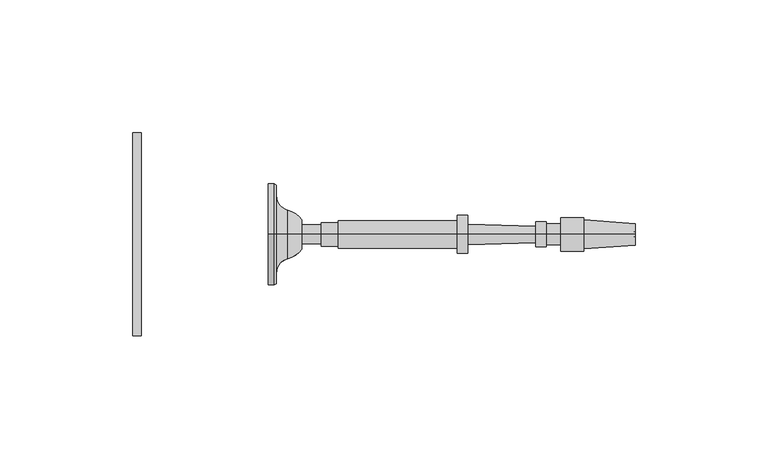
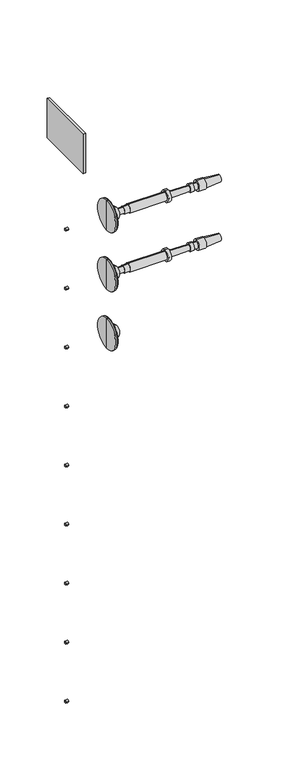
"""IFC4 building model written with IfcOpenShell, lengths in millimetres: railing geometry, RAILEASY CABLE RAILING CORNER TENSIONERS STAIR."""

from ifc_helpers import new_model, si_unit, point, frame, frame_2d, origin, place, context, project, spatial, polyline, circle_curve, ellipse_curve, trimmed, segment, composite_curve, outline, extrude, source, transform, mapped, element, save
from ifc_brep_helpers import plane_surface, cylinder_surface, revolved_surface, advanced_brep


def railing_eec3041f(model_context):
    return source(origin(), model_context, "Body", "SolidModel", [
        extrude(outline(polyline([(1759.1188898, 16668.1866843), (1759.1188898, 16744.3866843), (1762.2938898, 16744.3866843), (1762.2938898, 16668.1866843), (1759.1188898, 16668.1866843)])), frame((0.0, 0.0, 33390.9789063), z_axis=(0.0, 0.0, 1.0), x_axis=(1.0, 0.0, 0.0)), (0.0, 0.0, 1.0), 50.8),
        extrude(outline(composite_curve([segment(trimmed(circle_curve(frame_2d((16706.2866843, 33295.7289062)), 1.5379197), [point((16707.824604, 33295.7289062))], [point((16704.7487645, 33295.7289062))], False, "CARTESIAN"), True, "CONTINUOUS"), segment(trimmed(circle_curve(frame_2d((16706.2866843, 33295.7289062)), 1.5379197), [point((16704.7487645, 33295.7289062))], [point((16707.824604, 33295.7289062))], False, "CARTESIAN"), True, "CONTINUOUS")], self_intersect=False)), frame((1759.1188898, 0.0, 0.0), z_axis=(1.0, 0.0, 0.0), x_axis=(0.0, 1.0, 0.0)), (0.0, 0.0, 1.0), 3.175),
        extrude(outline(composite_curve([segment(trimmed(circle_curve(frame_2d((16706.2866843, 33219.5289063)), 1.5379197), [point((16707.824604, 33219.5289063))], [point((16704.7487645, 33219.5289063))], False, "CARTESIAN"), True, "CONTINUOUS"), segment(trimmed(circle_curve(frame_2d((16706.2866843, 33219.5289063)), 1.5379197), [point((16704.7487645, 33219.5289063))], [point((16707.824604, 33219.5289063))], False, "CARTESIAN"), True, "CONTINUOUS")], self_intersect=False)), frame((1759.1188898, 0.0, 0.0), z_axis=(1.0, 0.0, 0.0), x_axis=(0.0, 1.0, 0.0)), (0.0, 0.0, 1.0), 3.175),
        extrude(outline(composite_curve([segment(trimmed(circle_curve(frame_2d((16706.2866843, 33143.3289062)), 1.5379197), [point((16707.824604, 33143.3289062))], [point((16704.7487645, 33143.3289062))], False, "CARTESIAN"), True, "CONTINUOUS"), segment(trimmed(circle_curve(frame_2d((16706.2866843, 33143.3289062)), 1.5379197), [point((16704.7487645, 33143.3289062))], [point((16707.824604, 33143.3289062))], False, "CARTESIAN"), True, "CONTINUOUS")], self_intersect=False)), frame((1759.1188898, 0.0, 0.0), z_axis=(1.0, 0.0, 0.0), x_axis=(0.0, 1.0, 0.0)), (0.0, 0.0, 1.0), 3.175),
        extrude(outline(composite_curve([segment(trimmed(circle_curve(frame_2d((16706.2866843, 33067.1289062)), 1.5379197), [point((16707.824604, 33067.1289062))], [point((16704.7487645, 33067.1289062))], False, "CARTESIAN"), True, "CONTINUOUS"), segment(trimmed(circle_curve(frame_2d((16706.2866843, 33067.1289062)), 1.5379197), [point((16704.7487645, 33067.1289062))], [point((16707.824604, 33067.1289062))], False, "CARTESIAN"), True, "CONTINUOUS")], self_intersect=False)), frame((1759.1188898, 0.0, 0.0), z_axis=(1.0, 0.0, 0.0), x_axis=(0.0, 1.0, 0.0)), (0.0, 0.0, 1.0), 3.175),
        extrude(outline(composite_curve([segment(trimmed(circle_curve(frame_2d((16706.2866843, 32990.9289062)), 1.5379197), [point((16707.824604, 32990.9289062))], [point((16704.7487645, 32990.9289062))], False, "CARTESIAN"), True, "CONTINUOUS"), segment(trimmed(circle_curve(frame_2d((16706.2866843, 32990.9289062)), 1.5379197), [point((16704.7487645, 32990.9289062))], [point((16707.824604, 32990.9289062))], False, "CARTESIAN"), True, "CONTINUOUS")], self_intersect=False)), frame((1759.1188898, 0.0, 0.0), z_axis=(1.0, 0.0, 0.0), x_axis=(0.0, 1.0, 0.0)), (0.0, 0.0, 1.0), 3.175),
        extrude(outline(composite_curve([segment(trimmed(circle_curve(frame_2d((16706.2866843, 32914.7289062)), 1.5379197), [point((16707.824604, 32914.7289062))], [point((16704.7487645, 32914.7289062))], False, "CARTESIAN"), True, "CONTINUOUS"), segment(trimmed(circle_curve(frame_2d((16706.2866843, 32914.7289062)), 1.5379197), [point((16704.7487645, 32914.7289062))], [point((16707.824604, 32914.7289062))], False, "CARTESIAN"), True, "CONTINUOUS")], self_intersect=False)), frame((1759.1188898, 0.0, 0.0), z_axis=(1.0, 0.0, 0.0), x_axis=(0.0, 1.0, 0.0)), (0.0, 0.0, 1.0), 3.175),
        extrude(outline(composite_curve([segment(trimmed(circle_curve(frame_2d((16706.2866843, 32838.5289063)), 1.5379197), [point((16707.824604, 32838.5289063))], [point((16704.7487645, 32838.5289063))], False, "CARTESIAN"), True, "CONTINUOUS"), segment(trimmed(circle_curve(frame_2d((16706.2866843, 32838.5289063)), 1.5379197), [point((16704.7487645, 32838.5289063))], [point((16707.824604, 32838.5289063))], False, "CARTESIAN"), True, "CONTINUOUS")], self_intersect=False)), frame((1759.1188898, 0.0, 0.0), z_axis=(1.0, 0.0, 0.0), x_axis=(0.0, 1.0, 0.0)), (0.0, 0.0, 1.0), 3.175),
        extrude(outline(composite_curve([segment(trimmed(circle_curve(frame_2d((16706.2866843, 32762.3289062)), 1.5379197), [point((16707.824604, 32762.3289062))], [point((16704.7487645, 32762.3289062))], False, "CARTESIAN"), True, "CONTINUOUS"), segment(trimmed(circle_curve(frame_2d((16706.2866843, 32762.3289062)), 1.5379197), [point((16704.7487645, 32762.3289062))], [point((16707.824604, 32762.3289062))], False, "CARTESIAN"), True, "CONTINUOUS")], self_intersect=False)), frame((1759.1188898, 0.0, 0.0), z_axis=(1.0, 0.0, 0.0), x_axis=(0.0, 1.0, 0.0)), (0.0, 0.0, 1.0), 3.175),
        extrude(outline(composite_curve([segment(trimmed(circle_curve(frame_2d((16706.2866843, 32686.1289062)), 1.5379197), [point((16707.824604, 32686.1289062))], [point((16704.7487645, 32686.1289062))], False, "CARTESIAN"), True, "CONTINUOUS"), segment(trimmed(circle_curve(frame_2d((16706.2866843, 32686.1289062)), 1.5379197), [point((16704.7487645, 32686.1289062))], [point((16707.824604, 32686.1289062))], False, "CARTESIAN"), True, "CONTINUOUS")], self_intersect=False)), frame((1759.1188898, 0.0, 0.0), z_axis=(1.0, 0.0, 0.0), x_axis=(0.0, 1.0, 0.0)), (0.0, 0.0, 1.0), 3.175),
        advanced_brep(
        [(1809.936189, 16706.2866843, 33296.0001631), (1809.936189, 16706.2866843, 33276.9501631), (1809.936189, 16706.2866843, 33315.0501631), (1822.6288256, 16706.2866843, 33290.4769785), (1822.6288256, 16706.2866843, 33296.0001631), (1822.6288256, 16706.2866843, 33301.5233478), (1817.3527292, 16706.2866843, 33286.8720381), (1817.3527292, 16706.2866843, 33305.1282881), (1812.9871042, 16706.2866843, 33281.2458254), (1812.9871042, 16706.2866843, 33310.7545009), (1812.9871042, 16706.2866843, 33277.3762941), (1812.9871042, 16706.2866843, 33314.6240321), (1812.317439, 16706.2866843, 33276.9501631), (1812.317439, 16706.2866843, 33315.0501631)],
        [
            (0, 1),
            (1, 2, circle_curve(frame((1809.936189, 16706.2866843, 33296.0001631), z_axis=(-1.0, 0.0, 0.0), x_axis=(0.0, 0.0, 1.0)), 19.05)),
            (2, 0),
            (2, 1, circle_curve(frame((1809.936189, 16706.2866843, 33296.0001631), z_axis=(-1.0, 0.0, 0.0), x_axis=(0.0, 0.0, 1.0)), 19.05)),
            (3, 4),
            (4, 5),
            (5, 3, circle_curve(frame((1822.6288256, 16706.2866843, 33296.0001631), z_axis=(1.0, 0.0, 0.0), x_axis=(0.0, 0.0, 1.0)), 5.5231846)),
            (3, 5, circle_curve(frame((1822.6288256, 16706.2866843, 33296.0001631), z_axis=(1.0, 0.0, 0.0), x_axis=(0.0, 0.0, 1.0)), 5.5231846)),
            (6, 3, circle_curve(frame((1815.0283205, 16706.2866843, 33295.9374304), z_axis=(0.0, -1.0, 0.0), x_axis=(1.0, 0.0, 0.0)), 9.3586438)),
            (5, 7, circle_curve(frame((1815.0283205, 16706.2866843, 33296.0628958), z_axis=(0.0, -1.0, 0.0), x_axis=(1.0, 0.0, 0.0)), 9.3586438)),
            (7, 6, circle_curve(frame((1817.3527292, 16706.2866843, 33296.0001631), z_axis=(1.0, 0.0, 0.0), x_axis=(0.0, 0.0, 1.0)), 9.128125)),
            (6, 7, circle_curve(frame((1817.3527292, 16706.2866843, 33296.0001631), z_axis=(1.0, 0.0, 0.0), x_axis=(0.0, 0.0, 1.0)), 9.128125)),
            (8, 6, circle_curve(frame((1818.7953162, 16706.2866843, 33281.2458254), z_axis=(0.0, 1.0, 0.0), x_axis=(1.0, 0.0, 0.0)), 5.8082121)),
            (7, 9, circle_curve(frame((1818.7953162, 16706.2866843, 33310.7545009), z_axis=(0.0, 1.0, 0.0), x_axis=(1.0, 0.0, 0.0)), 5.8082121)),
            (9, 8, circle_curve(frame((1812.9871042, 16706.2866843, 33296.0001631), z_axis=(1.0, 0.0, 0.0), x_axis=(0.0, 0.0, 1.0)), 14.7543378)),
            (8, 9, circle_curve(frame((1812.9871042, 16706.2866843, 33296.0001631), z_axis=(1.0, 0.0, 0.0), x_axis=(0.0, 0.0, 1.0)), 14.7543378)),
            (10, 8),
            (9, 11),
            (11, 10, circle_curve(frame((1812.9871042, 16706.2866843, 33296.0001631), z_axis=(1.0, 0.0, 0.0), x_axis=(0.0, 0.0, 1.0)), 18.623869)),
            (10, 11, circle_curve(frame((1812.9871042, 16706.2866843, 33296.0001631), z_axis=(1.0, 0.0, 0.0), x_axis=(0.0, 0.0, 1.0)), 18.623869)),
            (12, 10),
            (11, 13),
            (13, 12, circle_curve(frame((1812.317439, 16706.2866843, 33296.0001631), z_axis=(1.0, 0.0, 0.0), x_axis=(0.0, 0.0, 1.0)), 19.05)),
            (12, 13, circle_curve(frame((1812.317439, 16706.2866843, 33296.0001631), z_axis=(1.0, 0.0, 0.0), x_axis=(0.0, 0.0, 1.0)), 19.05)),
            (1, 12),
            (13, 2),
        ],
        [
            plane_surface(frame((1809.936189, 16706.2866843, 33296.0001631), z_axis=(-1.0, 0.0, 0.0), x_axis=(0.0, 0.0, 1.0))),
            plane_surface(frame((1822.6288256, 16706.2866843, 33296.0001631), z_axis=(1.0, 0.0, 0.0), x_axis=(0.0, 0.0, 1.0))),
            revolved_surface(trimmed(ellipse_curve(frame((1815.0283205, 16706.2866843, 33296.0628958), z_axis=(0.0, -1.0, 0.0), x_axis=(1.0, 0.0, 0.0)), 9.3586438, 9.3586438), [point((1822.6288256, 16706.2866843, 33301.5233478))], [point((1817.3527292, 16706.2866843, 33305.1282881))], True, "CARTESIAN"), (1809.936189, 16706.2866843, 33296.0001631), (-1.0, 0.0, 0.0)),
            revolved_surface(trimmed(ellipse_curve(frame((1818.7953162, 16706.2866843, 33310.7545009), z_axis=(0.0, 1.0, 0.0), x_axis=(1.0, 0.0, 0.0)), 5.8082121, 5.8082121), [point((1817.3527292, 16706.2866843, 33305.1282881))], [point((1812.9871042, 16706.2866843, 33310.7545009))], True, "CARTESIAN"), (1809.936189, 16706.2866843, 33296.0001631), (-1.0, 0.0, 0.0)),
            plane_surface(frame((1812.9871042, 16706.2866843, 33296.0001631), z_axis=(1.0, 0.0, 0.0), x_axis=(0.0, 0.0, 1.0))),
            revolved_surface(polyline([(1812.9871042, 16706.2866843, 33314.6240321), (1812.317439, 16706.2866843, 33315.0501631)]), (1809.936189, 16706.2866843, 33296.0001631), (-1.0, 0.0, 0.0)),
            cylinder_surface(frame((1809.936189, 16706.2866843, 33296.0001631), z_axis=(-1.0, 0.0, 0.0), x_axis=(0.0, 0.0, 1.0)), 19.05),
        ],
        [
            (0, [[1, 2, 3]]),
            (0, [[-3, 4, -1]]),
            (1, [[5, 6, 7]]),
            (1, [[-6, -5, 8]]),
            (2, [[9, -7, 10, 11]]),
            (2, [[-10, -8, -9, 12]]),
            (3, [[13, -11, 14, 15]]),
            (3, [[-14, -12, -13, 16]]),
            (4, [[17, -15, 18, 19]]),
            (4, [[-18, -16, -17, 20]]),
            (5, [[21, -19, 22, 23]]),
            (5, [[-22, -20, -21, 24]]),
            (6, [[25, -23, 26, -2]]),
            (6, [[-26, -24, -25, -4]]),
        ],
    ),
        advanced_brep(
        [(1822.6288256, 16706.2866843, 33292.4282881), (1822.6288256, 16706.2866843, 33299.5720381), (1822.6288256, 16706.2866843, 33296.0001631), (1947.5727148, 16706.2866843, 33296.0001631), (1947.8683792, 16706.2866843, 33300.0246235), (1947.8683792, 16706.2866843, 33291.9757028), (1928.5250152, 16706.2866843, 33301.445719), (1928.5250152, 16706.2866843, 33290.5546072), (1928.5250152, 16706.2866843, 33302.3386877), (1928.5250152, 16706.2866843, 33289.6616385), (1919.892984, 16706.2866843, 33302.3386877), (1919.892984, 16706.2866843, 33289.6616385), (1919.892984, 16706.2866843, 33299.9574377), (1919.892984, 16706.2866843, 33292.0428885), (1914.5351715, 16706.2866843, 33299.9574377), (1914.5351715, 16706.2866843, 33292.0428885), (1914.5351715, 16706.2866843, 33300.7511877), (1914.5351715, 16706.2866843, 33291.2491385), (1910.4672027, 16706.2866843, 33300.7511877), (1910.4672027, 16706.2866843, 33291.2491385), (1910.4231156, 16706.2866843, 33299.1643), (1910.4231156, 16706.2866843, 33292.8360262), (1885.0329124, 16706.2866843, 33299.8696944), (1885.0329124, 16706.2866843, 33292.1306319), (1885.0329124, 16706.2866843, 33303.1439131), (1885.0329124, 16706.2866843, 33288.8564131), (1881.0641624, 16706.2866843, 33303.1439131), (1881.0641624, 16706.2866843, 33288.8564131), (1881.0641624, 16706.2866843, 33301.1595381), (1881.0641624, 16706.2866843, 33290.8407881), (1836.3165061, 16706.2866843, 33301.1595381), (1836.3165061, 16706.2866843, 33290.8407881), (1836.3165061, 16706.2866843, 33300.3657881), (1836.3165061, 16706.2866843, 33291.6345381), (1829.9665061, 16706.2866843, 33300.3657881), (1829.9665061, 16706.2866843, 33291.6345381), (1829.9665061, 16706.2866843, 33299.5720381), (1829.9665061, 16706.2866843, 33292.4282881)],
        [
            (0, 1, circle_curve(frame((1822.6288256, 16706.2866843, 33296.0001631), z_axis=(-1.0, 0.0, 0.0), x_axis=(0.0, 0.0, 1.0000000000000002)), 3.571875)),
            (1, 2),
            (2, 0),
            (1, 0, circle_curve(frame((1822.6288256, 16706.2866843, 33296.0001631), z_axis=(-1.0, 0.0, 0.0), x_axis=(0.0, 0.0, 1.0000000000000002)), 3.571875)),
            (3, 4),
            (4, 5, circle_curve(frame((1947.8683792, 16706.2866843, 33296.0001631), z_axis=(1.0, 0.0, 0.0), x_axis=(0.0, 0.0, 1.0000000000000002)), 4.0244604)),
            (5, 3),
            (5, 4, circle_curve(frame((1947.8683792, 16706.2866843, 33296.0001631), z_axis=(1.0, 0.0, 0.0), x_axis=(0.0, 0.0, 1.0000000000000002)), 4.0244604)),
            (4, 6),
            (6, 7, circle_curve(frame((1928.5250152, 16706.2866843, 33296.0001631), z_axis=(1.0, 0.0, 0.0), x_axis=(0.0, 0.0, 1.0000000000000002)), 5.4455559)),
            (7, 5),
            (7, 6, circle_curve(frame((1928.5250152, 16706.2866843, 33296.0001631), z_axis=(1.0, 0.0, 0.0), x_axis=(0.0, 0.0, 1.0000000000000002)), 5.4455559)),
            (6, 8),
            (8, 9, circle_curve(frame((1928.5250152, 16706.2866843, 33296.0001631), z_axis=(1.0, 0.0, 0.0), x_axis=(0.0, 0.0, 1.0000000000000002)), 6.3385246)),
            (9, 7),
            (9, 8, circle_curve(frame((1928.5250152, 16706.2866843, 33296.0001631), z_axis=(1.0, 0.0, 0.0), x_axis=(0.0, 0.0, 1.0000000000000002)), 6.3385246)),
            (8, 10),
            (10, 11, circle_curve(frame((1919.892984, 16706.2866843, 33296.0001631), z_axis=(1.0, 0.0, 0.0), x_axis=(0.0, 0.0, 1.0000000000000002)), 6.3385246)),
            (11, 9),
            (11, 10, circle_curve(frame((1919.892984, 16706.2866843, 33296.0001631), z_axis=(1.0, 0.0, 0.0), x_axis=(0.0, 0.0, 1.0000000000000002)), 6.3385246)),
            (10, 12),
            (12, 13, circle_curve(frame((1919.892984, 16706.2866843, 33296.0001631), z_axis=(1.0, 0.0, 0.0), x_axis=(0.0, 0.0, 1.0000000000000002)), 3.9572746)),
            (13, 11),
            (13, 12, circle_curve(frame((1919.892984, 16706.2866843, 33296.0001631), z_axis=(1.0, 0.0, 0.0), x_axis=(0.0, 0.0, 1.0000000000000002)), 3.9572746)),
            (12, 14),
            (14, 15, circle_curve(frame((1914.5351715, 16706.2866843, 33296.0001631), z_axis=(1.0, 0.0, 0.0), x_axis=(0.0, 0.0, 1.0000000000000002)), 3.9572746)),
            (15, 13),
            (15, 14, circle_curve(frame((1914.5351715, 16706.2866843, 33296.0001631), z_axis=(1.0, 0.0, 0.0), x_axis=(0.0, 0.0, 1.0000000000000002)), 3.9572746)),
            (14, 16),
            (16, 17, circle_curve(frame((1914.5351715, 16706.2866843, 33296.0001631), z_axis=(1.0, 0.0, 0.0), x_axis=(0.0, 0.0, 1.0000000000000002)), 4.7510246)),
            (17, 15),
            (17, 16, circle_curve(frame((1914.5351715, 16706.2866843, 33296.0001631), z_axis=(1.0, 0.0, 0.0), x_axis=(0.0, 0.0, 1.0000000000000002)), 4.7510246)),
            (16, 18),
            (18, 19, circle_curve(frame((1910.4672027, 16706.2866843, 33296.0001631), z_axis=(1.0, 0.0, 0.0), x_axis=(0.0, 0.0, 1.0000000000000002)), 4.7510246)),
            (19, 17),
            (19, 18, circle_curve(frame((1910.4672027, 16706.2866843, 33296.0001631), z_axis=(1.0, 0.0, 0.0), x_axis=(0.0, 0.0, 1.0000000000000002)), 4.7510246)),
            (18, 20),
            (20, 21, circle_curve(frame((1910.4231156, 16706.2866843, 33296.0001631), z_axis=(1.0, 0.0, 0.0), x_axis=(0.0, 0.0, 1.0000000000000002)), 3.1641369)),
            (21, 19),
            (21, 20, circle_curve(frame((1910.4231156, 16706.2866843, 33296.0001631), z_axis=(1.0, 0.0, 0.0), x_axis=(0.0, 0.0, 1.0000000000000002)), 3.1641369)),
            (20, 22),
            (22, 23, circle_curve(frame((1885.0329124, 16706.2866843, 33296.0001631), z_axis=(1.0, 0.0, 0.0), x_axis=(0.0, 0.0, 1.0000000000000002)), 3.8695313)),
            (23, 21),
            (23, 22, circle_curve(frame((1885.0329124, 16706.2866843, 33296.0001631), z_axis=(1.0, 0.0, 0.0), x_axis=(0.0, 0.0, 1.0000000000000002)), 3.8695313)),
            (22, 24),
            (24, 25, circle_curve(frame((1885.0329124, 16706.2866843, 33296.0001631), z_axis=(1.0, 0.0, 0.0), x_axis=(0.0, 0.0, 1.0000000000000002)), 7.14375)),
            (25, 23),
            (25, 24, circle_curve(frame((1885.0329124, 16706.2866843, 33296.0001631), z_axis=(1.0, 0.0, 0.0), x_axis=(0.0, 0.0, 1.0000000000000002)), 7.14375)),
            (24, 26),
            (26, 27, circle_curve(frame((1881.0641624, 16706.2866843, 33296.0001631), z_axis=(1.0, 0.0, 0.0), x_axis=(0.0, 0.0, 1.0000000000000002)), 7.14375)),
            (27, 25),
            (27, 26, circle_curve(frame((1881.0641624, 16706.2866843, 33296.0001631), z_axis=(1.0, 0.0, 0.0), x_axis=(0.0, 0.0, 1.0000000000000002)), 7.14375)),
            (26, 28),
            (28, 29, circle_curve(frame((1881.0641624, 16706.2866843, 33296.0001631), z_axis=(1.0, 0.0, 0.0), x_axis=(0.0, 0.0, 1.0000000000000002)), 5.159375)),
            (29, 27),
            (29, 28, circle_curve(frame((1881.0641624, 16706.2866843, 33296.0001631), z_axis=(1.0, 0.0, 0.0), x_axis=(0.0, 0.0, 1.0000000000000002)), 5.159375)),
            (28, 30),
            (30, 31, circle_curve(frame((1836.3165061, 16706.2866843, 33296.0001631), z_axis=(1.0, 0.0, 0.0), x_axis=(0.0, 0.0, 1.0000000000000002)), 5.159375)),
            (31, 29),
            (31, 30, circle_curve(frame((1836.3165061, 16706.2866843, 33296.0001631), z_axis=(1.0, 0.0, 0.0), x_axis=(0.0, 0.0, 1.0000000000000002)), 5.159375)),
            (30, 32),
            (32, 33, circle_curve(frame((1836.3165061, 16706.2866843, 33296.0001631), z_axis=(1.0, 0.0, 0.0), x_axis=(0.0, 0.0, 1.0000000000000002)), 4.365625)),
            (33, 31),
            (33, 32, circle_curve(frame((1836.3165061, 16706.2866843, 33296.0001631), z_axis=(1.0, 0.0, 0.0), x_axis=(0.0, 0.0, 1.0000000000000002)), 4.365625)),
            (32, 34),
            (34, 35, circle_curve(frame((1829.9665061, 16706.2866843, 33296.0001631), z_axis=(1.0, 0.0, 0.0), x_axis=(0.0, 0.0, 1.0000000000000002)), 4.365625)),
            (35, 33),
            (35, 34, circle_curve(frame((1829.9665061, 16706.2866843, 33296.0001631), z_axis=(1.0, 0.0, 0.0), x_axis=(0.0, 0.0, 1.0000000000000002)), 4.365625)),
            (34, 36),
            (36, 37, circle_curve(frame((1829.9665061, 16706.2866843, 33296.0001631), z_axis=(1.0, 0.0, 0.0), x_axis=(0.0, 0.0, 1.0000000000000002)), 3.571875)),
            (37, 35),
            (37, 36, circle_curve(frame((1829.9665061, 16706.2866843, 33296.0001631), z_axis=(1.0, 0.0, 0.0), x_axis=(0.0, 0.0, 1.0000000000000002)), 3.571875)),
            (36, 1),
            (0, 37),
        ],
        [
            plane_surface(frame((1822.6288256, 16706.2866843, 33296.0001631), z_axis=(-1.0, 0.0, 0.0), x_axis=(0.0, 0.0, 1.0))),
            revolved_surface(polyline([(1947.8683792, 16706.2866843, 33300.0246235), (1947.5727148, 16706.2866843, 33296.0001631)]), (1947.5727148, 16706.2866843, 33296.0001631), (1.0, 0.0, 0.0)),
            revolved_surface(polyline([(1928.5250152, 16706.2866843, 33301.445719), (1947.8683792, 16706.2866843, 33300.0246235)]), (1947.5727148, 16706.2866843, 33296.0001631), (1.0, 0.0, 0.0)),
            plane_surface(frame((1928.5250152, 16706.2866843, 33296.0001631), z_axis=(1.0, 0.0, 0.0), x_axis=(0.0, 0.0, 1.0))),
            cylinder_surface(frame((1947.5727148, 16706.2866843, 33296.0001631), z_axis=(1.0, 0.0, 0.0), x_axis=(0.0, 0.0, 1.0000000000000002)), 6.3385246),
            plane_surface(frame((1919.892984, 16706.2866843, 33296.0001631), z_axis=(-1.0, 0.0, 0.0), x_axis=(0.0, 0.0, 1.0))),
            cylinder_surface(frame((1947.5727148, 16706.2866843, 33296.0001631), z_axis=(1.0, 0.0, 0.0), x_axis=(0.0, 0.0, 1.0000000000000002)), 3.9572746),
            plane_surface(frame((1914.5351715, 16706.2866843, 33296.0001631), z_axis=(1.0, 0.0, 0.0), x_axis=(0.0, 0.0, 1.0))),
            cylinder_surface(frame((1947.5727148, 16706.2866843, 33296.0001631), z_axis=(1.0, 0.0, 0.0), x_axis=(0.0, 0.0, 1.0000000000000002)), 4.7510246),
            plane_surface(frame((1910.4231156, 16706.2866843, 33296.0001631), z_axis=(-1.0, 0.0, 0.0), x_axis=(0.0, 0.0, 1.0))),
            revolved_surface(polyline([(1885.0329124, 16706.2866843, 33299.8696944), (1910.4231156, 16706.2866843, 33299.1643)]), (1947.5727148, 16706.2866843, 33296.0001631), (1.0, 0.0, 0.0)),
            plane_surface(frame((1885.0329124, 16706.2866843, 33296.0001631), z_axis=(1.0, 0.0, 0.0), x_axis=(0.0, 0.0, 1.0))),
            cylinder_surface(frame((1947.5727148, 16706.2866843, 33296.0001631), z_axis=(1.0, 0.0, 0.0), x_axis=(0.0, 0.0, 1.0000000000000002)), 7.14375),
            plane_surface(frame((1881.0641624, 16706.2866843, 33296.0001631), z_axis=(-1.0, 0.0, 0.0), x_axis=(0.0, 0.0, 1.0))),
            cylinder_surface(frame((1947.5727148, 16706.2866843, 33296.0001631), z_axis=(1.0, 0.0, 0.0), x_axis=(0.0, 0.0, 1.0000000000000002)), 5.159375),
            plane_surface(frame((1836.3165061, 16706.2866843, 33296.0001631), z_axis=(-1.0, 0.0, 0.0), x_axis=(0.0, 0.0, 1.0))),
            cylinder_surface(frame((1947.5727148, 16706.2866843, 33296.0001631), z_axis=(1.0, 0.0, 0.0), x_axis=(0.0, 0.0, 1.0000000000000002)), 4.365625),
            plane_surface(frame((1829.9665061, 16706.2866843, 33296.0001631), z_axis=(-1.0, 0.0, 0.0), x_axis=(0.0, 0.0, 1.0))),
            cylinder_surface(frame((1947.5727148, 16706.2866843, 33296.0001631), z_axis=(1.0, 0.0, 0.0), x_axis=(0.0, 0.0, 1.0000000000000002)), 3.571875),
        ],
        [
            (0, [[1, 2, 3]]),
            (0, [[4, -3, -2]]),
            (1, [[5, 6, 7]]),
            (1, [[-7, 8, -5]]),
            (2, [[-6, 9, 10, 11]]),
            (2, [[-8, -11, 12, -9]]),
            (3, [[-10, 13, 14, 15]]),
            (3, [[-12, -15, 16, -13]]),
            (4, [[-14, 17, 18, 19]]),
            (4, [[-16, -19, 20, -17]]),
            (5, [[-18, 21, 22, 23]]),
            (5, [[-20, -23, 24, -21]]),
            (6, [[-22, 25, 26, 27]]),
            (6, [[-24, -27, 28, -25]]),
            (7, [[-26, 29, 30, 31]]),
            (7, [[-28, -31, 32, -29]]),
            (8, [[-30, 33, 34, 35]]),
            (8, [[-32, -35, 36, -33]]),
            (9, [[-34, 37, 38, 39]]),
            (9, [[-36, -39, 40, -37]]),
            (10, [[-38, 41, 42, 43]]),
            (10, [[-40, -43, 44, -41]]),
            (11, [[-42, 45, 46, 47]]),
            (11, [[-44, -47, 48, -45]]),
            (12, [[-46, 49, 50, 51]]),
            (12, [[-48, -51, 52, -49]]),
            (13, [[-50, 53, 54, 55]]),
            (13, [[-52, -55, 56, -53]]),
            (14, [[-54, 57, 58, 59]]),
            (14, [[-56, -59, 60, -57]]),
            (15, [[-58, 61, 62, 63]]),
            (15, [[-60, -63, 64, -61]]),
            (16, [[-62, 65, 66, 67]]),
            (16, [[-64, -67, 68, -65]]),
            (17, [[-66, 69, 70, 71]]),
            (17, [[-68, -71, 72, -69]]),
            (18, [[-70, 73, -1, 74]]),
            (18, [[-72, -74, -4, -73]]),
        ],
    ),
        advanced_brep(
        [(1809.936189, 16706.2866843, 33219.8001631), (1809.936189, 16706.2866843, 33200.7501631), (1809.936189, 16706.2866843, 33238.8501631), (1822.6288256, 16706.2866843, 33214.2769785), (1822.6288256, 16706.2866843, 33219.8001631), (1822.6288256, 16706.2866843, 33225.3233478), (1817.3527292, 16706.2866843, 33210.6720381), (1817.3527292, 16706.2866843, 33228.9282881), (1812.9871042, 16706.2866843, 33205.0458254), (1812.9871042, 16706.2866843, 33234.5545009), (1812.9871042, 16706.2866843, 33201.1762941), (1812.9871042, 16706.2866843, 33238.4240321), (1812.317439, 16706.2866843, 33200.7501631), (1812.317439, 16706.2866843, 33238.8501631)],
        [
            (0, 1),
            (1, 2, circle_curve(frame((1809.936189, 16706.2866843, 33219.8001631), z_axis=(-1.0, 0.0, 0.0), x_axis=(0.0, 0.0, 1.0)), 19.05)),
            (2, 0),
            (2, 1, circle_curve(frame((1809.936189, 16706.2866843, 33219.8001631), z_axis=(-1.0, 0.0, 0.0), x_axis=(0.0, 0.0, 1.0)), 19.05)),
            (3, 4),
            (4, 5),
            (5, 3, circle_curve(frame((1822.6288256, 16706.2866843, 33219.8001631), z_axis=(1.0, 0.0, 0.0), x_axis=(0.0, 0.0, 1.0)), 5.5231846)),
            (3, 5, circle_curve(frame((1822.6288256, 16706.2866843, 33219.8001631), z_axis=(1.0, 0.0, 0.0), x_axis=(0.0, 0.0, 1.0)), 5.5231846)),
            (6, 3, circle_curve(frame((1815.0283205, 16706.2866843, 33219.7374304), z_axis=(0.0, -1.0, 0.0), x_axis=(1.0, 0.0, 0.0)), 9.3586438)),
            (5, 7, circle_curve(frame((1815.0283205, 16706.2866843, 33219.8628958), z_axis=(0.0, -1.0, 0.0), x_axis=(1.0, 0.0, 0.0)), 9.3586438)),
            (7, 6, circle_curve(frame((1817.3527292, 16706.2866843, 33219.8001631), z_axis=(1.0, 0.0, 0.0), x_axis=(0.0, 0.0, 1.0)), 9.128125)),
            (6, 7, circle_curve(frame((1817.3527292, 16706.2866843, 33219.8001631), z_axis=(1.0, 0.0, 0.0), x_axis=(0.0, 0.0, 1.0)), 9.128125)),
            (8, 6, circle_curve(frame((1818.7953162, 16706.2866843, 33205.0458254), z_axis=(0.0, 1.0, 0.0), x_axis=(1.0, 0.0, 0.0)), 5.8082121)),
            (7, 9, circle_curve(frame((1818.7953162, 16706.2866843, 33234.5545009), z_axis=(0.0, 1.0, 0.0), x_axis=(1.0, 0.0, 0.0)), 5.8082121)),
            (9, 8, circle_curve(frame((1812.9871042, 16706.2866843, 33219.8001631), z_axis=(1.0, 0.0, 0.0), x_axis=(0.0, 0.0, 1.0)), 14.7543378)),
            (8, 9, circle_curve(frame((1812.9871042, 16706.2866843, 33219.8001631), z_axis=(1.0, 0.0, 0.0), x_axis=(0.0, 0.0, 1.0)), 14.7543378)),
            (10, 8),
            (9, 11),
            (11, 10, circle_curve(frame((1812.9871042, 16706.2866843, 33219.8001631), z_axis=(1.0, 0.0, 0.0), x_axis=(0.0, 0.0, 1.0)), 18.623869)),
            (10, 11, circle_curve(frame((1812.9871042, 16706.2866843, 33219.8001631), z_axis=(1.0, 0.0, 0.0), x_axis=(0.0, 0.0, 1.0)), 18.623869)),
            (12, 10),
            (11, 13),
            (13, 12, circle_curve(frame((1812.317439, 16706.2866843, 33219.8001631), z_axis=(1.0, 0.0, 0.0), x_axis=(0.0, 0.0, 1.0)), 19.05)),
            (12, 13, circle_curve(frame((1812.317439, 16706.2866843, 33219.8001631), z_axis=(1.0, 0.0, 0.0), x_axis=(0.0, 0.0, 1.0)), 19.05)),
            (1, 12),
            (13, 2),
        ],
        [
            plane_surface(frame((1809.936189, 16706.2866843, 33219.8001631), z_axis=(-1.0, 0.0, 0.0), x_axis=(0.0, 0.0, 1.0))),
            plane_surface(frame((1822.6288256, 16706.2866843, 33219.8001631), z_axis=(1.0, 0.0, 0.0), x_axis=(0.0, 0.0, 1.0))),
            revolved_surface(trimmed(ellipse_curve(frame((1815.0283205, 16706.2866843, 33219.8628958), z_axis=(0.0, -1.0, 0.0), x_axis=(1.0, 0.0, 0.0)), 9.3586438, 9.3586438), [point((1822.6288256, 16706.2866843, 33225.3233478))], [point((1817.3527292, 16706.2866843, 33228.9282881))], True, "CARTESIAN"), (1809.936189, 16706.2866843, 33219.8001631), (-1.0, 0.0, 0.0)),
            revolved_surface(trimmed(ellipse_curve(frame((1818.7953162, 16706.2866843, 33234.5545009), z_axis=(0.0, 1.0, 0.0), x_axis=(1.0, 0.0, 0.0)), 5.8082121, 5.8082121), [point((1817.3527292, 16706.2866843, 33228.9282881))], [point((1812.9871042, 16706.2866843, 33234.5545009))], True, "CARTESIAN"), (1809.936189, 16706.2866843, 33219.8001631), (-1.0, 0.0, 0.0)),
            plane_surface(frame((1812.9871042, 16706.2866843, 33219.8001631), z_axis=(1.0, 0.0, 0.0), x_axis=(0.0, 0.0, 1.0))),
            revolved_surface(polyline([(1812.9871042, 16706.2866843, 33238.4240321), (1812.317439, 16706.2866843, 33238.8501631)]), (1809.936189, 16706.2866843, 33219.8001631), (-1.0, 0.0, 0.0)),
            cylinder_surface(frame((1809.936189, 16706.2866843, 33219.8001631), z_axis=(-1.0, 0.0, 0.0), x_axis=(0.0, 0.0, 1.0)), 19.05),
        ],
        [
            (0, [[1, 2, 3]]),
            (0, [[-3, 4, -1]]),
            (1, [[5, 6, 7]]),
            (1, [[-6, -5, 8]]),
            (2, [[9, -7, 10, 11]]),
            (2, [[-10, -8, -9, 12]]),
            (3, [[13, -11, 14, 15]]),
            (3, [[-14, -12, -13, 16]]),
            (4, [[17, -15, 18, 19]]),
            (4, [[-18, -16, -17, 20]]),
            (5, [[21, -19, 22, 23]]),
            (5, [[-22, -20, -21, 24]]),
            (6, [[25, -23, 26, -2]]),
            (6, [[-26, -24, -25, -4]]),
        ],
    ),
        advanced_brep(
        [(1822.6288256, 16706.2866843, 33216.2282881), (1822.6288256, 16706.2866843, 33223.3720381), (1822.6288256, 16706.2866843, 33219.8001631), (1947.5727148, 16706.2866843, 33219.8001631), (1947.8683792, 16706.2866843, 33223.8246235), (1947.8683792, 16706.2866843, 33215.7757028), (1928.5250152, 16706.2866843, 33225.245719), (1928.5250152, 16706.2866843, 33214.3546072), (1928.5250152, 16706.2866843, 33226.1386877), (1928.5250152, 16706.2866843, 33213.4616385), (1919.892984, 16706.2866843, 33226.1386877), (1919.892984, 16706.2866843, 33213.4616385), (1919.892984, 16706.2866843, 33223.7574377), (1919.892984, 16706.2866843, 33215.8428885), (1914.5351715, 16706.2866843, 33223.7574377), (1914.5351715, 16706.2866843, 33215.8428885), (1914.5351715, 16706.2866843, 33224.5511877), (1914.5351715, 16706.2866843, 33215.0491385), (1910.4672027, 16706.2866843, 33224.5511877), (1910.4672027, 16706.2866843, 33215.0491385), (1910.4231156, 16706.2866843, 33222.9643), (1910.4231156, 16706.2866843, 33216.6360262), (1885.0329124, 16706.2866843, 33223.6696944), (1885.0329124, 16706.2866843, 33215.9306319), (1885.0329124, 16706.2866843, 33226.9439131), (1885.0329124, 16706.2866843, 33212.6564131), (1881.0641624, 16706.2866843, 33226.9439131), (1881.0641624, 16706.2866843, 33212.6564131), (1881.0641624, 16706.2866843, 33224.9595381), (1881.0641624, 16706.2866843, 33214.6407881), (1836.3165061, 16706.2866843, 33224.9595381), (1836.3165061, 16706.2866843, 33214.6407881), (1836.3165061, 16706.2866843, 33224.1657881), (1836.3165061, 16706.2866843, 33215.4345381), (1829.9665061, 16706.2866843, 33224.1657881), (1829.9665061, 16706.2866843, 33215.4345381), (1829.9665061, 16706.2866843, 33223.3720381), (1829.9665061, 16706.2866843, 33216.2282881)],
        [
            (0, 1, circle_curve(frame((1822.6288256, 16706.2866843, 33219.8001631), z_axis=(-1.0, 0.0, 0.0), x_axis=(0.0, 0.0, 1.0000000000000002)), 3.571875)),
            (1, 2),
            (2, 0),
            (1, 0, circle_curve(frame((1822.6288256, 16706.2866843, 33219.8001631), z_axis=(-1.0, 0.0, 0.0), x_axis=(0.0, 0.0, 1.0000000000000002)), 3.571875)),
            (3, 4),
            (4, 5, circle_curve(frame((1947.8683792, 16706.2866843, 33219.8001631), z_axis=(1.0, 0.0, 0.0), x_axis=(0.0, 0.0, 1.0000000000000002)), 4.0244604)),
            (5, 3),
            (5, 4, circle_curve(frame((1947.8683792, 16706.2866843, 33219.8001631), z_axis=(1.0, 0.0, 0.0), x_axis=(0.0, 0.0, 1.0000000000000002)), 4.0244604)),
            (4, 6),
            (6, 7, circle_curve(frame((1928.5250152, 16706.2866843, 33219.8001631), z_axis=(1.0, 0.0, 0.0), x_axis=(0.0, 0.0, 1.0000000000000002)), 5.4455559)),
            (7, 5),
            (7, 6, circle_curve(frame((1928.5250152, 16706.2866843, 33219.8001631), z_axis=(1.0, 0.0, 0.0), x_axis=(0.0, 0.0, 1.0000000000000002)), 5.4455559)),
            (6, 8),
            (8, 9, circle_curve(frame((1928.5250152, 16706.2866843, 33219.8001631), z_axis=(1.0, 0.0, 0.0), x_axis=(0.0, 0.0, 1.0000000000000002)), 6.3385246)),
            (9, 7),
            (9, 8, circle_curve(frame((1928.5250152, 16706.2866843, 33219.8001631), z_axis=(1.0, 0.0, 0.0), x_axis=(0.0, 0.0, 1.0000000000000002)), 6.3385246)),
            (8, 10),
            (10, 11, circle_curve(frame((1919.892984, 16706.2866843, 33219.8001631), z_axis=(1.0, 0.0, 0.0), x_axis=(0.0, 0.0, 1.0000000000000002)), 6.3385246)),
            (11, 9),
            (11, 10, circle_curve(frame((1919.892984, 16706.2866843, 33219.8001631), z_axis=(1.0, 0.0, 0.0), x_axis=(0.0, 0.0, 1.0000000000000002)), 6.3385246)),
            (10, 12),
            (12, 13, circle_curve(frame((1919.892984, 16706.2866843, 33219.8001631), z_axis=(1.0, 0.0, 0.0), x_axis=(0.0, 0.0, 1.0000000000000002)), 3.9572746)),
            (13, 11),
            (13, 12, circle_curve(frame((1919.892984, 16706.2866843, 33219.8001631), z_axis=(1.0, 0.0, 0.0), x_axis=(0.0, 0.0, 1.0000000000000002)), 3.9572746)),
            (12, 14),
            (14, 15, circle_curve(frame((1914.5351715, 16706.2866843, 33219.8001631), z_axis=(1.0, 0.0, 0.0), x_axis=(0.0, 0.0, 1.0000000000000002)), 3.9572746)),
            (15, 13),
            (15, 14, circle_curve(frame((1914.5351715, 16706.2866843, 33219.8001631), z_axis=(1.0, 0.0, 0.0), x_axis=(0.0, 0.0, 1.0000000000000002)), 3.9572746)),
            (14, 16),
            (16, 17, circle_curve(frame((1914.5351715, 16706.2866843, 33219.8001631), z_axis=(1.0, 0.0, 0.0), x_axis=(0.0, 0.0, 1.0000000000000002)), 4.7510246)),
            (17, 15),
            (17, 16, circle_curve(frame((1914.5351715, 16706.2866843, 33219.8001631), z_axis=(1.0, 0.0, 0.0), x_axis=(0.0, 0.0, 1.0000000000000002)), 4.7510246)),
            (16, 18),
            (18, 19, circle_curve(frame((1910.4672027, 16706.2866843, 33219.8001631), z_axis=(1.0, 0.0, 0.0), x_axis=(0.0, 0.0, 1.0000000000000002)), 4.7510246)),
            (19, 17),
            (19, 18, circle_curve(frame((1910.4672027, 16706.2866843, 33219.8001631), z_axis=(1.0, 0.0, 0.0), x_axis=(0.0, 0.0, 1.0000000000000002)), 4.7510246)),
            (18, 20),
            (20, 21, circle_curve(frame((1910.4231156, 16706.2866843, 33219.8001631), z_axis=(1.0, 0.0, 0.0), x_axis=(0.0, 0.0, 1.0000000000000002)), 3.1641369)),
            (21, 19),
            (21, 20, circle_curve(frame((1910.4231156, 16706.2866843, 33219.8001631), z_axis=(1.0, 0.0, 0.0), x_axis=(0.0, 0.0, 1.0000000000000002)), 3.1641369)),
            (20, 22),
            (22, 23, circle_curve(frame((1885.0329124, 16706.2866843, 33219.8001631), z_axis=(1.0, 0.0, 0.0), x_axis=(0.0, 0.0, 1.0000000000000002)), 3.8695313)),
            (23, 21),
            (23, 22, circle_curve(frame((1885.0329124, 16706.2866843, 33219.8001631), z_axis=(1.0, 0.0, 0.0), x_axis=(0.0, 0.0, 1.0000000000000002)), 3.8695313)),
            (22, 24),
            (24, 25, circle_curve(frame((1885.0329124, 16706.2866843, 33219.8001631), z_axis=(1.0, 0.0, 0.0), x_axis=(0.0, 0.0, 1.0000000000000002)), 7.14375)),
            (25, 23),
            (25, 24, circle_curve(frame((1885.0329124, 16706.2866843, 33219.8001631), z_axis=(1.0, 0.0, 0.0), x_axis=(0.0, 0.0, 1.0000000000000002)), 7.14375)),
            (24, 26),
            (26, 27, circle_curve(frame((1881.0641624, 16706.2866843, 33219.8001631), z_axis=(1.0, 0.0, 0.0), x_axis=(0.0, 0.0, 1.0000000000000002)), 7.14375)),
            (27, 25),
            (27, 26, circle_curve(frame((1881.0641624, 16706.2866843, 33219.8001631), z_axis=(1.0, 0.0, 0.0), x_axis=(0.0, 0.0, 1.0000000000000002)), 7.14375)),
            (26, 28),
            (28, 29, circle_curve(frame((1881.0641624, 16706.2866843, 33219.8001631), z_axis=(1.0, 0.0, 0.0), x_axis=(0.0, 0.0, 1.0000000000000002)), 5.159375)),
            (29, 27),
            (29, 28, circle_curve(frame((1881.0641624, 16706.2866843, 33219.8001631), z_axis=(1.0, 0.0, 0.0), x_axis=(0.0, 0.0, 1.0000000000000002)), 5.159375)),
            (28, 30),
            (30, 31, circle_curve(frame((1836.3165061, 16706.2866843, 33219.8001631), z_axis=(1.0, 0.0, 0.0), x_axis=(0.0, 0.0, 1.0000000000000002)), 5.159375)),
            (31, 29),
            (31, 30, circle_curve(frame((1836.3165061, 16706.2866843, 33219.8001631), z_axis=(1.0, 0.0, 0.0), x_axis=(0.0, 0.0, 1.0000000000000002)), 5.159375)),
            (30, 32),
            (32, 33, circle_curve(frame((1836.3165061, 16706.2866843, 33219.8001631), z_axis=(1.0, 0.0, 0.0), x_axis=(0.0, 0.0, 1.0000000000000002)), 4.365625)),
            (33, 31),
            (33, 32, circle_curve(frame((1836.3165061, 16706.2866843, 33219.8001631), z_axis=(1.0, 0.0, 0.0), x_axis=(0.0, 0.0, 1.0000000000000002)), 4.365625)),
            (32, 34),
            (34, 35, circle_curve(frame((1829.9665061, 16706.2866843, 33219.8001631), z_axis=(1.0, 0.0, 0.0), x_axis=(0.0, 0.0, 1.0000000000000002)), 4.365625)),
            (35, 33),
            (35, 34, circle_curve(frame((1829.9665061, 16706.2866843, 33219.8001631), z_axis=(1.0, 0.0, 0.0), x_axis=(0.0, 0.0, 1.0000000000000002)), 4.365625)),
            (34, 36),
            (36, 37, circle_curve(frame((1829.9665061, 16706.2866843, 33219.8001631), z_axis=(1.0, 0.0, 0.0), x_axis=(0.0, 0.0, 1.0000000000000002)), 3.571875)),
            (37, 35),
            (37, 36, circle_curve(frame((1829.9665061, 16706.2866843, 33219.8001631), z_axis=(1.0, 0.0, 0.0), x_axis=(0.0, 0.0, 1.0000000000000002)), 3.571875)),
            (36, 1),
            (0, 37),
        ],
        [
            plane_surface(frame((1822.6288256, 16706.2866843, 33219.8001631), z_axis=(-1.0, 0.0, 0.0), x_axis=(0.0, 0.0, 1.0))),
            revolved_surface(polyline([(1947.8683792, 16706.2866843, 33223.8246235), (1947.5727148, 16706.2866843, 33219.8001631)]), (1947.5727148, 16706.2866843, 33219.8001631), (1.0, 0.0, 0.0)),
            revolved_surface(polyline([(1928.5250152, 16706.2866843, 33225.245719), (1947.8683792, 16706.2866843, 33223.8246235)]), (1947.5727148, 16706.2866843, 33219.8001631), (1.0, 0.0, 0.0)),
            plane_surface(frame((1928.5250152, 16706.2866843, 33219.8001631), z_axis=(1.0, 0.0, 0.0), x_axis=(0.0, 0.0, 1.0))),
            cylinder_surface(frame((1947.5727148, 16706.2866843, 33219.8001631), z_axis=(1.0, 0.0, 0.0), x_axis=(0.0, 0.0, 1.0000000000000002)), 6.3385246),
            plane_surface(frame((1919.892984, 16706.2866843, 33219.8001631), z_axis=(-1.0, 0.0, 0.0), x_axis=(0.0, 0.0, 1.0))),
            cylinder_surface(frame((1947.5727148, 16706.2866843, 33219.8001631), z_axis=(1.0, 0.0, 0.0), x_axis=(0.0, 0.0, 1.0000000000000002)), 3.9572746),
            plane_surface(frame((1914.5351715, 16706.2866843, 33219.8001631), z_axis=(1.0, 0.0, 0.0), x_axis=(0.0, 0.0, 1.0))),
            cylinder_surface(frame((1947.5727148, 16706.2866843, 33219.8001631), z_axis=(1.0, 0.0, 0.0), x_axis=(0.0, 0.0, 1.0000000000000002)), 4.7510246),
            plane_surface(frame((1910.4231156, 16706.2866843, 33219.8001631), z_axis=(-1.0, 0.0, 0.0), x_axis=(0.0, 0.0, 1.0))),
            revolved_surface(polyline([(1885.0329124, 16706.2866843, 33223.6696944), (1910.4231156, 16706.2866843, 33222.9643)]), (1947.5727148, 16706.2866843, 33219.8001631), (1.0, 0.0, 0.0)),
            plane_surface(frame((1885.0329124, 16706.2866843, 33219.8001631), z_axis=(1.0, 0.0, 0.0), x_axis=(0.0, 0.0, 1.0))),
            cylinder_surface(frame((1947.5727148, 16706.2866843, 33219.8001631), z_axis=(1.0, 0.0, 0.0), x_axis=(0.0, 0.0, 1.0000000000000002)), 7.14375),
            plane_surface(frame((1881.0641624, 16706.2866843, 33219.8001631), z_axis=(-1.0, 0.0, 0.0), x_axis=(0.0, 0.0, 1.0))),
            cylinder_surface(frame((1947.5727148, 16706.2866843, 33219.8001631), z_axis=(1.0, 0.0, 0.0), x_axis=(0.0, 0.0, 1.0000000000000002)), 5.159375),
            plane_surface(frame((1836.3165061, 16706.2866843, 33219.8001631), z_axis=(-1.0, 0.0, 0.0), x_axis=(0.0, 0.0, 1.0))),
            cylinder_surface(frame((1947.5727148, 16706.2866843, 33219.8001631), z_axis=(1.0, 0.0, 0.0), x_axis=(0.0, 0.0, 1.0000000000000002)), 4.365625),
            plane_surface(frame((1829.9665061, 16706.2866843, 33219.8001631), z_axis=(-1.0, 0.0, 0.0), x_axis=(0.0, 0.0, 1.0))),
            cylinder_surface(frame((1947.5727148, 16706.2866843, 33219.8001631), z_axis=(1.0, 0.0, 0.0), x_axis=(0.0, 0.0, 1.0000000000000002)), 3.571875),
        ],
        [
            (0, [[1, 2, 3]]),
            (0, [[4, -3, -2]]),
            (1, [[5, 6, 7]]),
            (1, [[-7, 8, -5]]),
            (2, [[-6, 9, 10, 11]]),
            (2, [[-8, -11, 12, -9]]),
            (3, [[-10, 13, 14, 15]]),
            (3, [[-12, -15, 16, -13]]),
            (4, [[-14, 17, 18, 19]]),
            (4, [[-16, -19, 20, -17]]),
            (5, [[-18, 21, 22, 23]]),
            (5, [[-20, -23, 24, -21]]),
            (6, [[-22, 25, 26, 27]]),
            (6, [[-24, -27, 28, -25]]),
            (7, [[-26, 29, 30, 31]]),
            (7, [[-28, -31, 32, -29]]),
            (8, [[-30, 33, 34, 35]]),
            (8, [[-32, -35, 36, -33]]),
            (9, [[-34, 37, 38, 39]]),
            (9, [[-36, -39, 40, -37]]),
            (10, [[-38, 41, 42, 43]]),
            (10, [[-40, -43, 44, -41]]),
            (11, [[-42, 45, 46, 47]]),
            (11, [[-44, -47, 48, -45]]),
            (12, [[-46, 49, 50, 51]]),
            (12, [[-48, -51, 52, -49]]),
            (13, [[-50, 53, 54, 55]]),
            (13, [[-52, -55, 56, -53]]),
            (14, [[-54, 57, 58, 59]]),
            (14, [[-56, -59, 60, -57]]),
            (15, [[-58, 61, 62, 63]]),
            (15, [[-60, -63, 64, -61]]),
            (16, [[-62, 65, 66, 67]]),
            (16, [[-64, -67, 68, -65]]),
            (17, [[-66, 69, 70, 71]]),
            (17, [[-68, -71, 72, -69]]),
            (18, [[-70, 73, -1, 74]]),
            (18, [[-72, -74, -4, -73]]),
        ],
    ),
        advanced_brep(
        [(1809.936189, 16706.2866843, 33143.6001631), (1809.936189, 16706.2866843, 33124.5501631), (1809.936189, 16706.2866843, 33162.6501631), (1822.6288256, 16706.2866843, 33138.0769785), (1822.6288256, 16706.2866843, 33143.6001631), (1822.6288256, 16706.2866843, 33149.1233478), (1817.3527292, 16706.2866843, 33134.4720381), (1817.3527292, 16706.2866843, 33152.7282881), (1812.9871042, 16706.2866843, 33128.8458254), (1812.9871042, 16706.2866843, 33158.3545009), (1812.9871042, 16706.2866843, 33124.9762941), (1812.9871042, 16706.2866843, 33162.2240321), (1812.317439, 16706.2866843, 33124.5501631), (1812.317439, 16706.2866843, 33162.6501631)],
        [
            (0, 1),
            (1, 2, circle_curve(frame((1809.936189, 16706.2866843, 33143.6001631), z_axis=(-1.0, 0.0, 0.0), x_axis=(0.0, 0.0, 1.0)), 19.05)),
            (2, 0),
            (2, 1, circle_curve(frame((1809.936189, 16706.2866843, 33143.6001631), z_axis=(-1.0, 0.0, 0.0), x_axis=(0.0, 0.0, 1.0)), 19.05)),
            (3, 4),
            (4, 5),
            (5, 3, circle_curve(frame((1822.6288256, 16706.2866843, 33143.6001631), z_axis=(1.0, 0.0, 0.0), x_axis=(0.0, 0.0, 1.0)), 5.5231846)),
            (3, 5, circle_curve(frame((1822.6288256, 16706.2866843, 33143.6001631), z_axis=(1.0, 0.0, 0.0), x_axis=(0.0, 0.0, 1.0)), 5.5231846)),
            (6, 3, circle_curve(frame((1815.0283205, 16706.2866843, 33143.5374304), z_axis=(0.0, -1.0, 0.0), x_axis=(1.0, 0.0, 0.0)), 9.3586438)),
            (5, 7, circle_curve(frame((1815.0283205, 16706.2866843, 33143.6628958), z_axis=(0.0, -1.0, 0.0), x_axis=(1.0, 0.0, 0.0)), 9.3586438)),
            (7, 6, circle_curve(frame((1817.3527292, 16706.2866843, 33143.6001631), z_axis=(1.0, 0.0, 0.0), x_axis=(0.0, 0.0, 1.0)), 9.128125)),
            (6, 7, circle_curve(frame((1817.3527292, 16706.2866843, 33143.6001631), z_axis=(1.0, 0.0, 0.0), x_axis=(0.0, 0.0, 1.0)), 9.128125)),
            (8, 6, circle_curve(frame((1818.7953162, 16706.2866843, 33128.8458254), z_axis=(0.0, 1.0, 0.0), x_axis=(1.0, 0.0, 0.0)), 5.8082121)),
            (7, 9, circle_curve(frame((1818.7953162, 16706.2866843, 33158.3545009), z_axis=(0.0, 1.0, 0.0), x_axis=(1.0, 0.0, 0.0)), 5.8082121)),
            (9, 8, circle_curve(frame((1812.9871042, 16706.2866843, 33143.6001631), z_axis=(1.0, 0.0, 0.0), x_axis=(0.0, 0.0, 1.0)), 14.7543378)),
            (8, 9, circle_curve(frame((1812.9871042, 16706.2866843, 33143.6001631), z_axis=(1.0, 0.0, 0.0), x_axis=(0.0, 0.0, 1.0)), 14.7543378)),
            (10, 8),
            (9, 11),
            (11, 10, circle_curve(frame((1812.9871042, 16706.2866843, 33143.6001631), z_axis=(1.0, 0.0, 0.0), x_axis=(0.0, 0.0, 1.0)), 18.623869)),
            (10, 11, circle_curve(frame((1812.9871042, 16706.2866843, 33143.6001631), z_axis=(1.0, 0.0, 0.0), x_axis=(0.0, 0.0, 1.0)), 18.623869)),
            (12, 10),
            (11, 13),
            (13, 12, circle_curve(frame((1812.317439, 16706.2866843, 33143.6001631), z_axis=(1.0, 0.0, 0.0), x_axis=(0.0, 0.0, 1.0)), 19.05)),
            (12, 13, circle_curve(frame((1812.317439, 16706.2866843, 33143.6001631), z_axis=(1.0, 0.0, 0.0), x_axis=(0.0, 0.0, 1.0)), 19.05)),
            (1, 12),
            (13, 2),
        ],
        [
            plane_surface(frame((1809.936189, 16706.2866843, 33143.6001631), z_axis=(-1.0, 0.0, 0.0), x_axis=(0.0, 0.0, 1.0))),
            plane_surface(frame((1822.6288256, 16706.2866843, 33143.6001631), z_axis=(1.0, 0.0, 0.0), x_axis=(0.0, 0.0, 1.0))),
            revolved_surface(trimmed(ellipse_curve(frame((1815.0283205, 16706.2866843, 33143.6628958), z_axis=(0.0, -1.0, 0.0), x_axis=(1.0, 0.0, 0.0)), 9.3586438, 9.3586438), [point((1822.6288256, 16706.2866843, 33149.1233478))], [point((1817.3527292, 16706.2866843, 33152.7282881))], True, "CARTESIAN"), (1809.936189, 16706.2866843, 33143.6001631), (-1.0, 0.0, 0.0)),
            revolved_surface(trimmed(ellipse_curve(frame((1818.7953162, 16706.2866843, 33158.3545009), z_axis=(0.0, 1.0, 0.0), x_axis=(1.0, 0.0, 0.0)), 5.8082121, 5.8082121), [point((1817.3527292, 16706.2866843, 33152.7282881))], [point((1812.9871042, 16706.2866843, 33158.3545009))], True, "CARTESIAN"), (1809.936189, 16706.2866843, 33143.6001631), (-1.0, 0.0, 0.0)),
            plane_surface(frame((1812.9871042, 16706.2866843, 33143.6001631), z_axis=(1.0, 0.0, 0.0), x_axis=(0.0, 0.0, 1.0))),
            revolved_surface(polyline([(1812.9871042, 16706.2866843, 33162.2240321), (1812.317439, 16706.2866843, 33162.6501631)]), (1809.936189, 16706.2866843, 33143.6001631), (-1.0, 0.0, 0.0)),
            cylinder_surface(frame((1809.936189, 16706.2866843, 33143.6001631), z_axis=(-1.0, 0.0, 0.0), x_axis=(0.0, 0.0, 1.0)), 19.05),
        ],
        [
            (0, [[1, 2, 3]]),
            (0, [[-3, 4, -1]]),
            (1, [[5, 6, 7]]),
            (1, [[-6, -5, 8]]),
            (2, [[9, -7, 10, 11]]),
            (2, [[-10, -8, -9, 12]]),
            (3, [[13, -11, 14, 15]]),
            (3, [[-14, -12, -13, 16]]),
            (4, [[17, -15, 18, 19]]),
            (4, [[-18, -16, -17, 20]]),
            (5, [[21, -19, 22, 23]]),
            (5, [[-22, -20, -21, 24]]),
            (6, [[25, -23, 26, -2]]),
            (6, [[-26, -24, -25, -4]]),
        ],
    ),
    ])


if __name__ == "__main__":
    model = new_model("IFC4")
    model_context = context("Model", 3, world=origin())
    ifc_project = project(units=[si_unit("LENGTHUNIT", "METRE", prefix="MILLI")], contexts=[model_context])
    site = spatial("IfcSite", under=ifc_project)
    building = spatial("IfcBuilding", under=site)
    placement = place(None, origin())
    railing_shape = railing_eec3041f(model_context)
    element("IfcRailing", 1, ObjectType="RAILEASY CABLE RAILING CORNER TENSIONERS STAIR", at=placement, inside=building, context=model_context, shape_type="MappedRepresentation", body=[
        mapped(railing_shape, transform((0.0, 0.0, 0.0), x_axis=(1.0, 0.0, 0.0), y_axis=(0.0, 1.0, 0.0), z_axis=(0.0, 0.0, 1.0))),
    ])
    save(model, "model.ifc")
